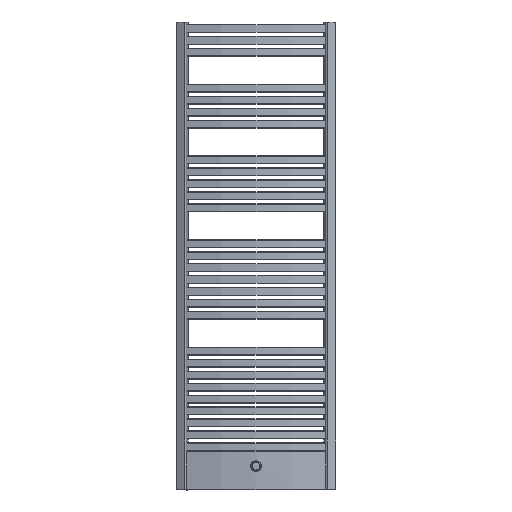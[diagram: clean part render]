
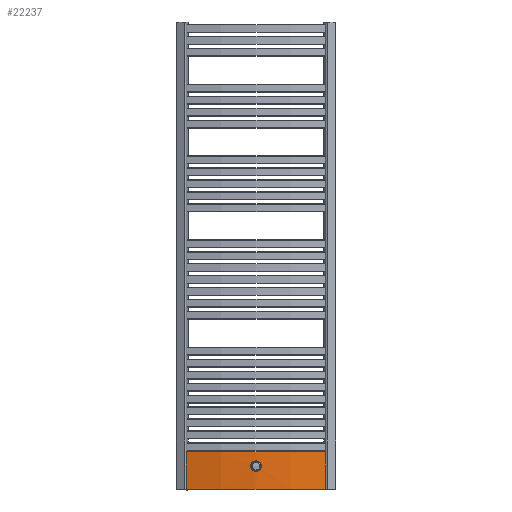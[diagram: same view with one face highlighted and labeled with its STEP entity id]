
A CAD part, front view. The second image highlights one B-rep face of the part: STEP entity #22237.
In plain terms, the highlighted cylindrical face has radius 965.647 mm (diameter 1931.29 mm), a partial arc.
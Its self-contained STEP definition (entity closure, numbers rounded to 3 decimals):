
#19769=CARTESIAN_POINT('',(261.831,-30.918,142.));
#19770=VERTEX_POINT('',#19769);
#20227=CARTESIAN_POINT('',(-261.831,-30.918,142.));
#20228=VERTEX_POINT('',#20227);
#20246=CARTESIAN_POINT('',(-261.831,-30.918,0.));
#20247=VERTEX_POINT('',#20246);
#20255=CARTESIAN_POINT('',(-261.831,-30.918,0.));
#20256=DIRECTION('',(0.0,0.0,1.0));
#20257=VECTOR('',#20256,142.);
#20258=LINE('',#20255,#20257);
#20259=EDGE_CURVE('',#20247,#20228,#20258,.T.);
#20270=CARTESIAN_POINT('',(261.831,-30.918,0.));
#20271=VERTEX_POINT('',#20270);
#20272=CARTESIAN_POINT('',(261.831,-30.918,0.));
#20273=DIRECTION('',(0.0,0.0,1.0));
#20274=VECTOR('',#20273,142.);
#20275=LINE('',#20272,#20274);
#20276=EDGE_CURVE('',#20271,#19770,#20275,.T.);
#20424=CARTESIAN_POINT('',(0.,898.555,142.));
#20425=DIRECTION('',(0.,0.,1.0));
#20426=DIRECTION('',(0.,-1.0,0.));
#20427=AXIS2_PLACEMENT_3D('',#20424,#20425,#20426);
#20428=CIRCLE('',#20427,965.647);
#20429=EDGE_CURVE('',#20228,#19770,#20428,.T.);
#20542=CARTESIAN_POINT('',(0.,898.555,0.));
#20543=DIRECTION('',(0.,0.,-1.0));
#20544=DIRECTION('',(0.,-1.0,0.));
#20545=AXIS2_PLACEMENT_3D('',#20542,#20543,#20544);
#20546=CIRCLE('',#20545,965.647);
#20547=EDGE_CURVE('',#20271,#20247,#20546,.T.);
#22153=CARTESIAN_POINT('',(0.,898.555,0.));
#22154=DIRECTION('',(0.,0.,1.0));
#22155=DIRECTION('',(0.271,-0.963,0.));
#22156=AXIS2_PLACEMENT_3D('',#22153,#22154,#22155);
#22157=CYLINDRICAL_SURFACE('',#22156,965.647);
#22158=ORIENTED_EDGE('',*,*,#20547,.F.);
#22159=ORIENTED_EDGE('',*,*,#20276,.T.);
#22160=ORIENTED_EDGE('',*,*,#20429,.F.);
#22161=ORIENTED_EDGE('',*,*,#20259,.F.);
#22162=EDGE_LOOP('',(#22158,#22159,#22160,#22161));
#22163=FACE_OUTER_BOUND('',#22162,.T.);
#22164=CARTESIAN_POINT('',(20.,-66.885,87.5));
#22165=VERTEX_POINT('',#22164);
#22166=CARTESIAN_POINT('',(20.,-66.885,87.5));
#22167=CARTESIAN_POINT('',(20.,-66.885,86.244));
#22168=CARTESIAN_POINT('',(19.88,-66.888,84.946));
#22169=CARTESIAN_POINT('',(19.374,-66.898,82.363));
#22170=CARTESIAN_POINT('',(18.988,-66.906,81.078));
#22171=CARTESIAN_POINT('',(17.967,-66.925,78.614));
#22172=CARTESIAN_POINT('',(17.332,-66.937,77.433));
#22173=CARTESIAN_POINT('',(15.863,-66.962,75.249));
#22174=CARTESIAN_POINT('',(15.03,-66.976,74.246));
#22175=CARTESIAN_POINT('',(13.254,-67.002,72.47));
#22176=CARTESIAN_POINT('',(12.251,-67.015,71.637));
#22177=CARTESIAN_POINT('',(10.067,-67.04,70.168));
#22178=CARTESIAN_POINT('',(8.886,-67.052,69.533));
#22179=CARTESIAN_POINT('',(6.422,-67.072,68.512));
#22180=CARTESIAN_POINT('',(5.137,-67.079,68.126));
#22181=CARTESIAN_POINT('',(2.554,-67.09,67.62));
#22182=CARTESIAN_POINT('',(1.256,-67.092,67.5));
#22183=CARTESIAN_POINT('',(-1.256,-67.092,67.5));
#22184=CARTESIAN_POINT('',(-2.554,-67.09,67.62));
#22185=CARTESIAN_POINT('',(-5.137,-67.079,68.126));
#22186=CARTESIAN_POINT('',(-6.422,-67.072,68.512));
#22187=CARTESIAN_POINT('',(-8.886,-67.052,69.533));
#22188=CARTESIAN_POINT('',(-10.067,-67.04,70.168));
#22189=CARTESIAN_POINT('',(-12.251,-67.015,71.637));
#22190=CARTESIAN_POINT('',(-13.254,-67.002,72.47));
#22191=CARTESIAN_POINT('',(-15.03,-66.976,74.246));
#22192=CARTESIAN_POINT('',(-15.863,-66.962,75.249));
#22193=CARTESIAN_POINT('',(-17.332,-66.937,77.433));
#22194=CARTESIAN_POINT('',(-17.967,-66.925,78.614));
#22195=CARTESIAN_POINT('',(-18.988,-66.906,81.078));
#22196=CARTESIAN_POINT('',(-19.374,-66.898,82.363));
#22197=CARTESIAN_POINT('',(-19.88,-66.888,84.946));
#22198=CARTESIAN_POINT('',(-20.,-66.885,86.244));
#22199=CARTESIAN_POINT('',(-20.,-66.885,88.756));
#22200=CARTESIAN_POINT('',(-19.88,-66.888,90.054));
#22201=CARTESIAN_POINT('',(-19.374,-66.898,92.637));
#22202=CARTESIAN_POINT('',(-18.988,-66.906,93.922));
#22203=CARTESIAN_POINT('',(-17.967,-66.925,96.386));
#22204=CARTESIAN_POINT('',(-17.332,-66.937,97.567));
#22205=CARTESIAN_POINT('',(-15.863,-66.962,99.751));
#22206=CARTESIAN_POINT('',(-15.03,-66.976,100.754));
#22207=CARTESIAN_POINT('',(-13.254,-67.002,102.53));
#22208=CARTESIAN_POINT('',(-12.251,-67.015,103.363));
#22209=CARTESIAN_POINT('',(-10.067,-67.04,104.832));
#22210=CARTESIAN_POINT('',(-8.886,-67.052,105.467));
#22211=CARTESIAN_POINT('',(-6.422,-67.072,106.488));
#22212=CARTESIAN_POINT('',(-5.137,-67.079,106.874));
#22213=CARTESIAN_POINT('',(-2.554,-67.09,107.38));
#22214=CARTESIAN_POINT('',(-1.256,-67.092,107.5));
#22215=CARTESIAN_POINT('',(1.256,-67.092,107.5));
#22216=CARTESIAN_POINT('',(2.554,-67.09,107.38));
#22217=CARTESIAN_POINT('',(5.137,-67.079,106.874));
#22218=CARTESIAN_POINT('',(6.422,-67.072,106.488));
#22219=CARTESIAN_POINT('',(8.886,-67.052,105.467));
#22220=CARTESIAN_POINT('',(10.067,-67.04,104.832));
#22221=CARTESIAN_POINT('',(12.251,-67.015,103.363));
#22222=CARTESIAN_POINT('',(13.254,-67.002,102.53));
#22223=CARTESIAN_POINT('',(15.03,-66.976,100.754));
#22224=CARTESIAN_POINT('',(15.863,-66.962,99.751));
#22225=CARTESIAN_POINT('',(17.332,-66.937,97.567));
#22226=CARTESIAN_POINT('',(17.967,-66.925,96.386));
#22227=CARTESIAN_POINT('',(18.988,-66.906,93.922));
#22228=CARTESIAN_POINT('',(19.374,-66.898,92.637));
#22229=CARTESIAN_POINT('',(19.88,-66.888,90.054));
#22230=CARTESIAN_POINT('',(20.,-66.885,88.756));
#22231=CARTESIAN_POINT('',(20.,-66.885,87.5));
#22232=B_SPLINE_CURVE_WITH_KNOTS('',3,(#22166,#22167,#22168,#22169,#22170,#22171,#22172,#22173,#22174,#22175,#22176,#22177,#22178,#22179,#22180,#22181,#22182,#22183,#22184,#22185,#22186,#22187,#22188,#22189,#22190,#22191,#22192,#22193,#22194,#22195,#22196,#22197,#22198,#22199,#22200,#22201,#22202,#22203,#22204,#22205,#22206,#22207,#22208,#22209,#22210,#22211,#22212,#22213,#22214,#22215,#22216,#22217,#22218,#22219,#22220,#22221,#22222,#22223,#22224,#22225,#22226,#22227,#22228,#22229,#22230,#22231),.UNSPECIFIED.,.T.,.U.,(4,2,2,2,2,2,2,2,2,2,2,2,2,2,2,2,2,2,2,2,2,2,2,2,2,2,2,2,2,2,2,2,4),(0.0,0.377,0.753,1.13,1.507,1.883,2.26,2.637,3.014,3.39,3.767,4.144,4.52,4.897,5.274,5.65,6.027,6.404,6.781,7.157,7.534,7.911,8.287,8.664,9.041,9.417,9.794,10.171,10.548,10.924,11.301,11.678,12.054),.UNSPECIFIED.);
#22233=EDGE_CURVE('',#22165,#22165,#22232,.T.);
#22234=ORIENTED_EDGE('',*,*,#22233,.T.);
#22235=EDGE_LOOP('',(#22234));
#22236=FACE_BOUND('',#22235,.T.);
#22237=ADVANCED_FACE('',(#22163,#22236),#22157,.T.);
